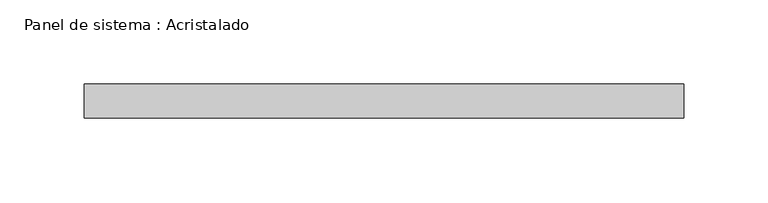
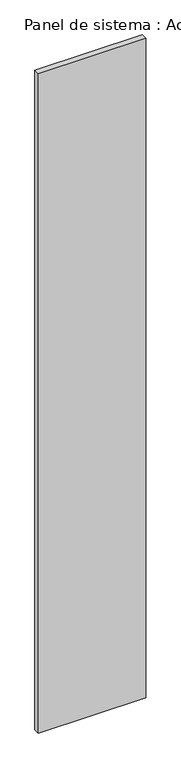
"""IFC4 building model written with IfcOpenShell, lengths in millimetres: plate geometry, Panel de sistema : Acristalado."""

from ifc_helpers import new_model, si_unit, origin, origin_with_axes, place, context, project, spatial, polyline, outline, extrude, source, transform, mapped, element, save


def panel_de_sistema_acristalado_8c370545(model_context):
    return source(origin(), model_context, "Body", "SweptSolid", [
        extrude(outline(polyline([(177.2814556, -10.0), (-177.2814556, -10.0), (-177.2814556, 10.0), (177.2814556, 10.0), (177.2814556, -10.0)])), origin_with_axes(), (0.0, 0.0, 1.0), 2300.0),
    ])


if __name__ == "__main__":
    model = new_model("IFC4")
    model_context = context("Model", 3, world=origin())
    ifc_project = project(units=[si_unit("LENGTHUNIT", "METRE", prefix="MILLI")], contexts=[model_context])
    site = spatial("IfcSite", under=ifc_project)
    building = spatial("IfcBuilding", under=site)
    placement = place(None, origin())
    panel_de_sistema_acristalado_shape = panel_de_sistema_acristalado_8c370545(model_context)
    element("IfcPlate", 1, ObjectType="Panel de sistema : Acristalado", at=placement, inside=building, context=model_context, shape_type="MappedRepresentation", body=[
        mapped(panel_de_sistema_acristalado_shape, transform((0.0, 0.0, 0.0), x_axis=(1.0, 0.0, 0.0), y_axis=(0.0, 1.0, 0.0), z_axis=(0.0, 0.0, 1.0))),
    ])
    save(model, "model.ifc")
